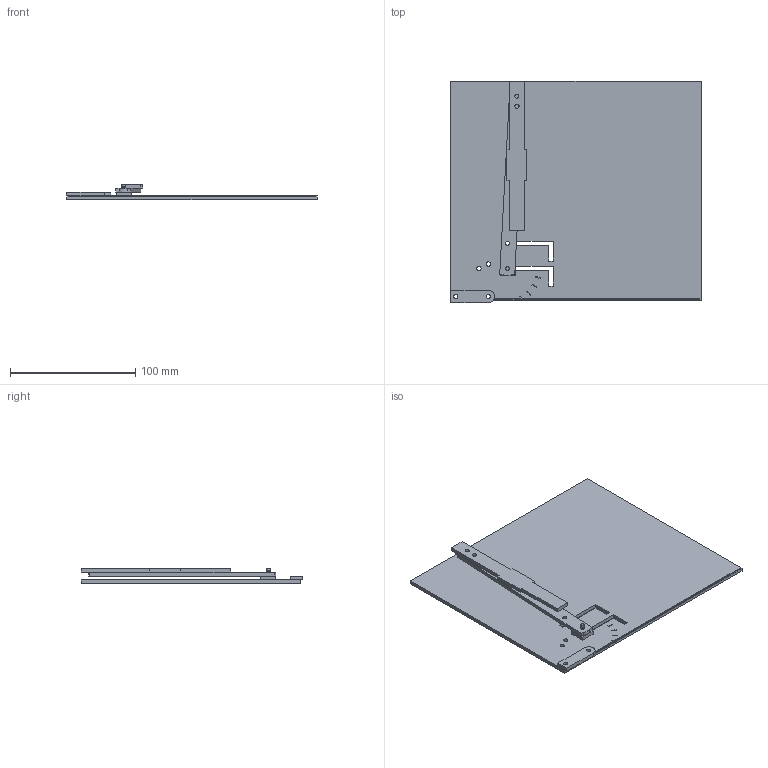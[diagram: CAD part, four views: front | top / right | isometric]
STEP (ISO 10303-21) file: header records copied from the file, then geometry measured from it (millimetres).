
FILE_DESCRIPTION(('Open CASCADE Model'),'2;1');
FILE_NAME('F08_asm_liftshift','2026-11-15T22:32:30',('Author'),( 'Open CASCADE'),'Open CASCADE STEP processor 8.0','build123d', 'Unknown');
FILE_SCHEMA(('AUTOMOTIVE_DESIGN { 1 0 10303 214 1 1 1 1 }'));
Length unit declared in the file: millimetre
Products named in the file (6): F08_asm_liftshift; CARD; SLIDER; COL; FOOT; ARM
Assembly tree (5 placements, depth 2):
  F08_asm_liftshift
    CARD
    SLIDER
    COL
    FOOT
    ARM
Bounding box: 200 x 177 x 12 mm (x, y, z)
Volume: 114897.6 mm3; surface area: 82618.9 mm2
Topology: 5 solids, 5 shells, 106 faces, 267 edges, 178 vertices
Faces by surface type: plane 87, cylinder 19
Full cylindrical faces by diameter (mm): 2.5 x1, 3 x3, 3.3 x6, 3.4 x6
Entity records: 6650 total; most frequent: CARTESIAN_POINT 1218, DIRECTION 941, LINE 604, VECTOR 604, ORIENTED_EDGE 534, PCURVE 534, DEFINITIONAL_REPRESENTATION 534, EDGE_CURVE 267
